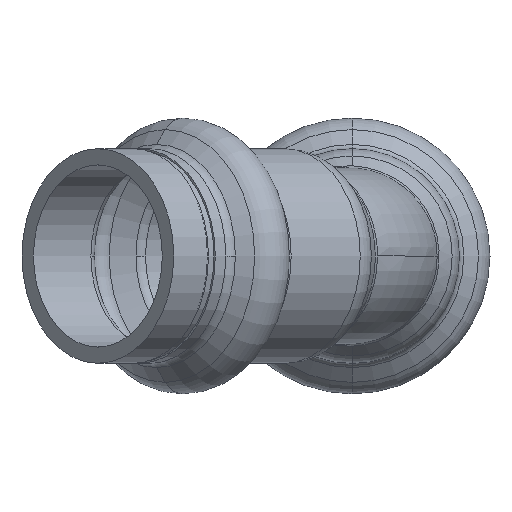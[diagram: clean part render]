
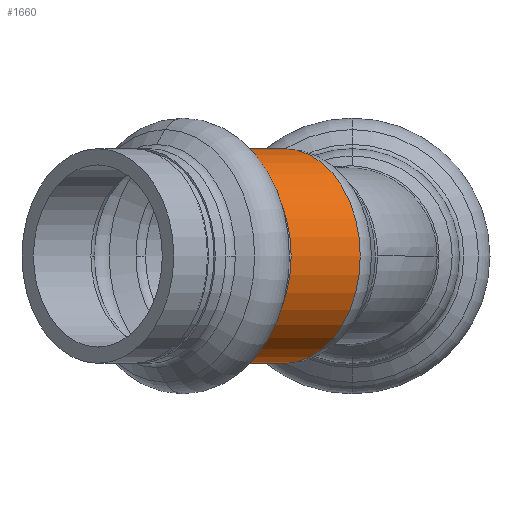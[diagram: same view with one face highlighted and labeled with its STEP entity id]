
A CAD part, left-side view. The second image highlights one B-rep face of the part: STEP entity #1660.
In plain terms, the highlighted cylindrical face has radius 8.95 mm (diameter 17.9 mm), a partial arc.
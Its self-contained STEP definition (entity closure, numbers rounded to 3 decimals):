
#358 = ORIENTED_EDGE ( 'NONE', *, *, #2399, .T. ) ;
#462 = CARTESIAN_POINT ( 'NONE',  ( -11.417, 11.417, -8.95 ) ) ;
#469 = DIRECTION ( 'NONE',  ( 0.707, 0.707, 0. ) ) ;
#475 = DIRECTION ( 'NONE',  ( 0.707, -0.707, 0. ) ) ;
#480 = CARTESIAN_POINT ( 'NONE',  ( -11.417, 11.417, 0. ) ) ;
#762 = ORIENTED_EDGE ( 'NONE', *, *, #1531, .T. ) ;
#810 = EDGE_CURVE ( 'NONE', #2484, #2517, #3159, .T. ) ;
#1036 = CARTESIAN_POINT ( 'NONE',  ( -17.746, 5.089, 0. ) ) ;
#1095 = VERTEX_POINT ( 'NONE', #3307 ) ;
#1098 = VECTOR ( 'NONE', #1862, 1000. ) ;
#1157 = FACE_OUTER_BOUND ( 'NONE', #1434, .T. ) ;
#1191 = AXIS2_PLACEMENT_3D ( 'NONE', #3338, #3309, #3297 ) ;
#1365 = CARTESIAN_POINT ( 'NONE',  ( -25.175, 25.175, 0. ) ) ;
#1381 = DIRECTION ( 'NONE',  ( 0., 0., -1. ) ) ;
#1407 = DIRECTION ( 'NONE',  ( -0.707, 0.707, 0. ) ) ;
#1434 = EDGE_LOOP ( 'NONE', ( #2322, #358, #1883, #762, #2744 ) ) ;
#1507 = AXIS2_PLACEMENT_3D ( 'NONE', #480, #475, #469 ) ;
#1531 = EDGE_CURVE ( 'NONE', #2778, #3738, #3108, .T. ) ;
#1660 = ADVANCED_FACE ( 'NONE', ( #1157 ), #2481, .T. ) ;
#1851 = CARTESIAN_POINT ( 'NONE',  ( -25.175, 25.175, 8.95 ) ) ;
#1862 = DIRECTION ( 'NONE',  ( -0.707, 0.707, 0. ) ) ;
#1883 = ORIENTED_EDGE ( 'NONE', *, *, #2519, .T. ) ;
#1971 = AXIS2_PLACEMENT_3D ( 'NONE', #1365, #1407, #1381 ) ;
#2322 = ORIENTED_EDGE ( 'NONE', *, *, #810, .F. ) ;
#2399 = EDGE_CURVE ( 'NONE', #2484, #1095, #3378, .T. ) ;
#2481 = CYLINDRICAL_SURFACE ( 'NONE', #1971, 8.95 ) ;
#2484 = VERTEX_POINT ( 'NONE', #3707 ) ;
#2517 = VERTEX_POINT ( 'NONE', #3685 ) ;
#2519 = EDGE_CURVE ( 'NONE', #1095, #2778, #3237, .T. ) ;
#2559 = EDGE_CURVE ( 'NONE', #2517, #3738, #2994, .T. ) ;
#2696 = DIRECTION ( 'NONE',  ( 0., 0., -1. ) ) ;
#2710 = CARTESIAN_POINT ( 'NONE',  ( -5.657, 5.657, 0. ) ) ;
#2744 = ORIENTED_EDGE ( 'NONE', *, *, #2559, .F. ) ;
#2778 = VERTEX_POINT ( 'NONE', #1036 ) ;
#2780 = DIRECTION ( 'NONE',  ( 0.707, -0.707, 0. ) ) ;
#2821 = VECTOR ( 'NONE', #3383, 1000. ) ;
#2994 = LINE ( 'NONE', #3206, #2821 ) ;
#3108 = CIRCLE ( 'NONE', #1507, 8.95 ) ;
#3159 = CIRCLE ( 'NONE', #3249, 8.95 ) ;
#3206 = CARTESIAN_POINT ( 'NONE',  ( -25.175, 25.175, -8.95 ) ) ;
#3237 = CIRCLE ( 'NONE', #1191, 8.95 ) ;
#3249 = AXIS2_PLACEMENT_3D ( 'NONE', #2710, #2780, #2696 ) ;
#3297 = DIRECTION ( 'NONE',  ( 0.707, 0.707, 0. ) ) ;
#3307 = CARTESIAN_POINT ( 'NONE',  ( -11.417, 11.417, 8.95 ) ) ;
#3309 = DIRECTION ( 'NONE',  ( 0.707, -0.707, 0. ) ) ;
#3338 = CARTESIAN_POINT ( 'NONE',  ( -11.417, 11.417, 0. ) ) ;
#3378 = LINE ( 'NONE', #1851, #1098 ) ;
#3383 = DIRECTION ( 'NONE',  ( -0.707, 0.707, 0. ) ) ;
#3685 = CARTESIAN_POINT ( 'NONE',  ( -5.657, 5.657, -8.95 ) ) ;
#3707 = CARTESIAN_POINT ( 'NONE',  ( -5.657, 5.657, 8.95 ) ) ;
#3738 = VERTEX_POINT ( 'NONE', #462 ) ;
